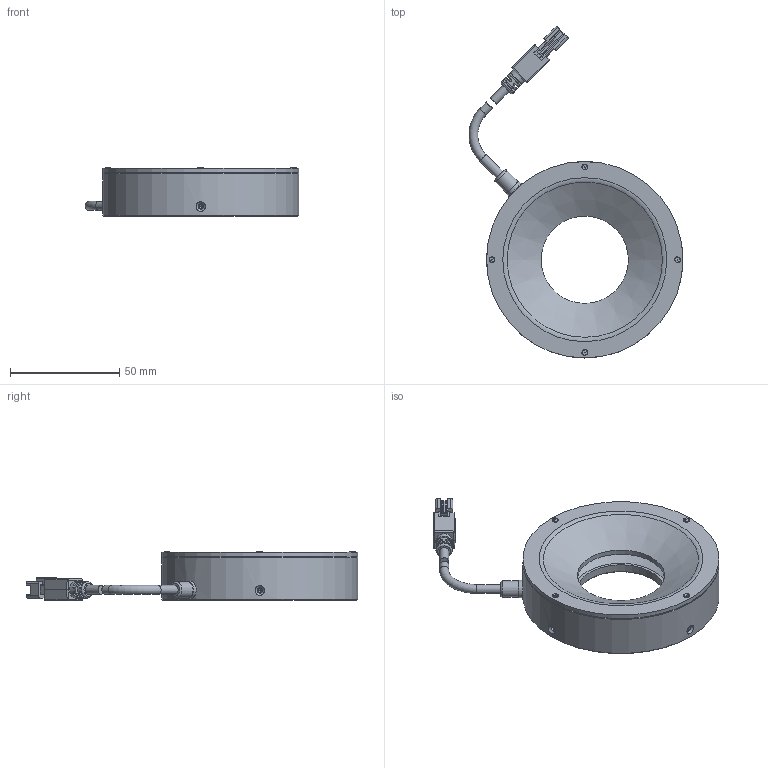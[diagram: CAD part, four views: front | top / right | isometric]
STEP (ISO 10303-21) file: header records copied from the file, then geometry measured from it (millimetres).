
FILE_DESCRIPTION (( 'STEP AP203' ), '1' );
FILE_NAME ('OPT-RI9030-X-V5.0U尨砩芞.STEP', '2024-12-12T11:20:12', ( '' ), ( '' ), 'SwSTEP 2.0', 'SolidWorks 2016', '' );
FILE_SCHEMA (( 'CONFIG_CONTROL_DESIGN' ));
Length unit declared in the file: millimetre
Products named in the file (1): OPT-RI9030-X-V5.0U尨砩芞
Bounding box: 98.04 x 152.11 x 22.7 mm (x, y, z)
Volume: 70884.5 mm3; surface area: 38043.1 mm2
Topology: 11 solids, 15 shells, 472 faces, 1160 edges, 737 vertices
Faces by surface type: plane 258, cylinder 138, cone 42, bspline 23, torus 11
Full cylindrical faces by diameter (mm): 1.1 x4, 1.4 x4, 1.6 x4, 1.7 x4, 2 x4, 2.4 x4, 2.5 x4, 2.6 x4, 3.5 x1, 4.1 x4, 5.8 x1, 7.5 x2, 8 x1, 40 x2, 43.6 x1, 81.8 x1, 86 x1, 90 x2
Entity records: 14615 total; most frequent: CARTESIAN_POINT 4078, DIRECTION 2108, ORIENTED_EDGE 2060, EDGE_CURVE 1030, AXIS2_PLACEMENT_3D 728, VERTEX_POINT 706, LINE 652, VECTOR 652
